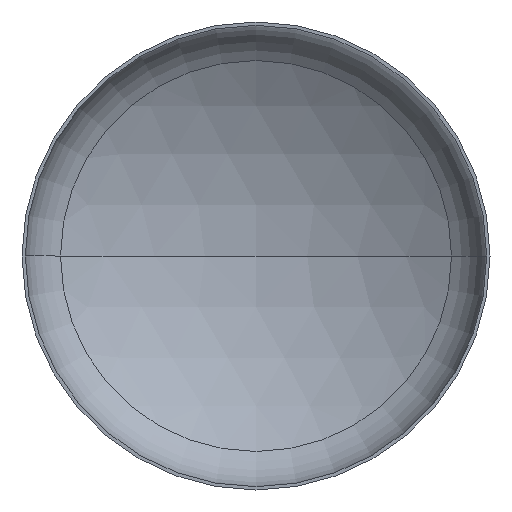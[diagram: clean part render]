
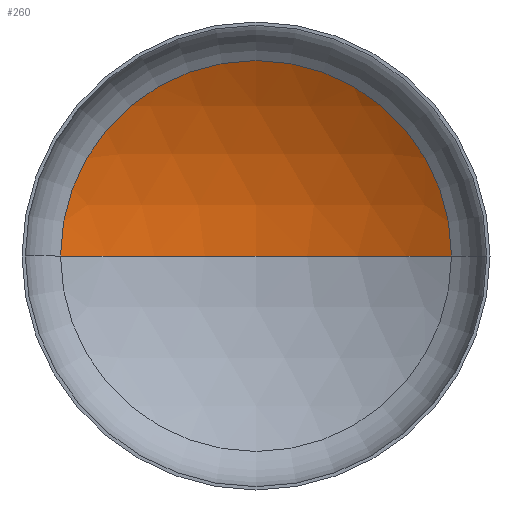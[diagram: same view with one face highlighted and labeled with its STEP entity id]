
A CAD part, front view. The second image highlights one B-rep face of the part: STEP entity #260.
In plain terms, the highlighted spherical face has radius 560 mm.
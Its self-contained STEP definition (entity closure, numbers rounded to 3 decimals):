
#6 = EDGE_LOOP ( 'NONE', ( #40, #198, #29 ) ) ;
#9 = CARTESIAN_POINT ( 'NONE',  ( 0., 113.809, 0. ) ) ;
#22 = CIRCLE ( 'NONE', #125, 560. ) ;
#24 = VERTEX_POINT ( 'NONE', #241 ) ;
#26 = VERTEX_POINT ( 'NONE', #235 ) ;
#29 = ORIENTED_EDGE ( 'NONE', *, *, #236, .T. ) ;
#40 = ORIENTED_EDGE ( 'NONE', *, *, #252, .F. ) ;
#43 = CIRCLE ( 'NONE', #133, 292.444 ) ;
#95 = VERTEX_POINT ( 'NONE', #322 ) ;
#98 = AXIS2_PLACEMENT_3D ( 'NONE', #189, #253, #156 ) ;
#125 = AXIS2_PLACEMENT_3D ( 'NONE', #212, #196, #211 ) ;
#129 = AXIS2_PLACEMENT_3D ( 'NONE', #299, #134, #174 ) ;
#133 = AXIS2_PLACEMENT_3D ( 'NONE', #9, #224, #167 ) ;
#134 = DIRECTION ( 'NONE',  ( 0., 0., -1. ) ) ;
#147 = SPHERICAL_SURFACE ( 'NONE', #98, 560. ) ;
#156 = DIRECTION ( 'NONE',  ( -1., 0., 0. ) ) ;
#167 = DIRECTION ( 'NONE',  ( 1., 0., 0. ) ) ;
#174 = DIRECTION ( 'NONE',  ( -1., 0., 0. ) ) ;
#189 = CARTESIAN_POINT ( 'NONE',  ( 0., -363.764, 0. ) ) ;
#196 = DIRECTION ( 'NONE',  ( 0., 0., 1. ) ) ;
#198 = ORIENTED_EDGE ( 'NONE', *, *, #247, .T. ) ;
#211 = DIRECTION ( 'NONE',  ( 1., 0., 0. ) ) ;
#212 = CARTESIAN_POINT ( 'NONE',  ( 0., -363.764, 0. ) ) ;
#224 = DIRECTION ( 'NONE',  ( 0., -1., 0. ) ) ;
#235 = CARTESIAN_POINT ( 'NONE',  ( 0., 196.236, 0. ) ) ;
#236 = EDGE_CURVE ( 'NONE', #24, #95, #43, .T. ) ;
#241 = CARTESIAN_POINT ( 'NONE',  ( 292.444, 113.809, 0. ) ) ;
#247 = EDGE_CURVE ( 'NONE', #26, #24, #363, .T. ) ;
#252 = EDGE_CURVE ( 'NONE', #26, #95, #22, .T. ) ;
#253 = DIRECTION ( 'NONE',  ( 0., 0., -1. ) ) ;
#260 = ADVANCED_FACE ( 'NONE', ( #358 ), #147, .F. ) ;
#299 = CARTESIAN_POINT ( 'NONE',  ( 0., -363.764, 0. ) ) ;
#322 = CARTESIAN_POINT ( 'NONE',  ( -292.444, 113.809, 0. ) ) ;
#358 = FACE_OUTER_BOUND ( 'NONE', #6, .T. ) ;
#363 = CIRCLE ( 'NONE', #129, 560. ) ;
